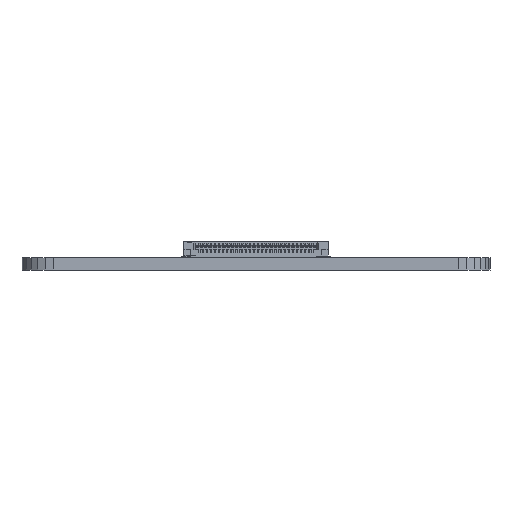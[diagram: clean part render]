
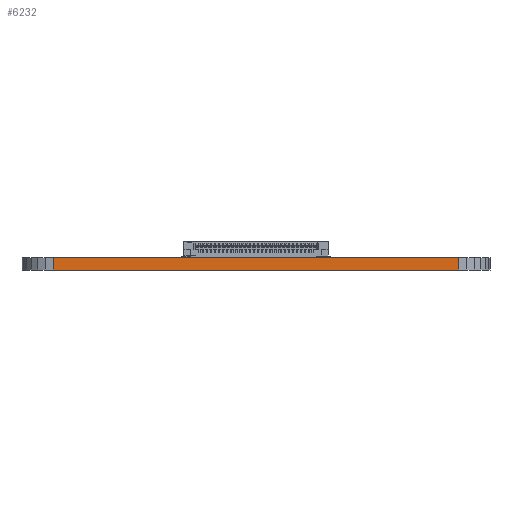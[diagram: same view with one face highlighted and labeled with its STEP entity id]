
A CAD part, front view. The second image highlights one B-rep face of the part: STEP entity #6232.
In plain terms, the highlighted planar face has unit normal (0, -1, 0).
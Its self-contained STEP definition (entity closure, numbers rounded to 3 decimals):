
#249 = DIRECTION ( 'NONE',  ( 0., 0., -1. ) ) ;
#885 = VERTEX_POINT ( 'NONE', #36842 ) ;
#1735 = VECTOR ( 'NONE', #27751, 1000. ) ;
#2081 = CARTESIAN_POINT ( 'NONE',  ( 4., 0., 1.6 ) ) ;
#3255 = PLANE ( 'NONE',  #36852 ) ;
#3705 = ORIENTED_EDGE ( 'NONE', *, *, #33857, .F. ) ;
#3827 = DIRECTION ( 'NONE',  ( 0., -1., 0. ) ) ;
#4307 = CARTESIAN_POINT ( 'NONE',  ( 56., 0., 0. ) ) ;
#5292 = CARTESIAN_POINT ( 'NONE',  ( 4., 0., 0. ) ) ;
#6232 = ADVANCED_FACE ( 'NONE', ( #12915 ), #3255, .T. ) ;
#8457 = DIRECTION ( 'NONE',  ( 1., 0., 0. ) ) ;
#9348 = LINE ( 'NONE', #22968, #25706 ) ;
#10882 = LINE ( 'NONE', #33647, #1735 ) ;
#11034 = EDGE_CURVE ( 'NONE', #885, #13672, #34850, .T. ) ;
#12915 = FACE_OUTER_BOUND ( 'NONE', #19276, .T. ) ;
#13672 = VERTEX_POINT ( 'NONE', #35621 ) ;
#16011 = ORIENTED_EDGE ( 'NONE', *, *, #18371, .T. ) ;
#18269 = EDGE_CURVE ( 'NONE', #885, #22073, #9348, .T. ) ;
#18371 = EDGE_CURVE ( 'NONE', #22073, #26755, #10882, .T. ) ;
#18429 = DIRECTION ( 'NONE',  ( 0., 0., 1. ) ) ;
#19276 = EDGE_LOOP ( 'NONE', ( #16011, #3705, #30585, #30179 ) ) ;
#21258 = CARTESIAN_POINT ( 'NONE',  ( 56., 0., 1.6 ) ) ;
#22073 = VERTEX_POINT ( 'NONE', #4307 ) ;
#22968 = CARTESIAN_POINT ( 'NONE',  ( 4., 0., 0. ) ) ;
#23071 = VECTOR ( 'NONE', #8457, 1000. ) ;
#25632 = LINE ( 'NONE', #2081, #23071 ) ;
#25706 = VECTOR ( 'NONE', #35848, 1000. ) ;
#26755 = VERTEX_POINT ( 'NONE', #21258 ) ;
#27751 = DIRECTION ( 'NONE',  ( 0., 0., 1. ) ) ;
#30179 = ORIENTED_EDGE ( 'NONE', *, *, #18269, .T. ) ;
#30585 = ORIENTED_EDGE ( 'NONE', *, *, #11034, .F. ) ;
#31317 = VECTOR ( 'NONE', #18429, 1000. ) ;
#33647 = CARTESIAN_POINT ( 'NONE',  ( 56., 0., 0. ) ) ;
#33857 = EDGE_CURVE ( 'NONE', #13672, #26755, #25632, .T. ) ;
#34850 = LINE ( 'NONE', #5292, #31317 ) ;
#35621 = CARTESIAN_POINT ( 'NONE',  ( 4., 0., 1.6 ) ) ;
#35848 = DIRECTION ( 'NONE',  ( 1., 0., 0. ) ) ;
#36842 = CARTESIAN_POINT ( 'NONE',  ( 4., 0., 0. ) ) ;
#36852 = AXIS2_PLACEMENT_3D ( 'NONE', #38401, #3827, #249 ) ;
#38401 = CARTESIAN_POINT ( 'NONE',  ( 4., 0., 0. ) ) ;
